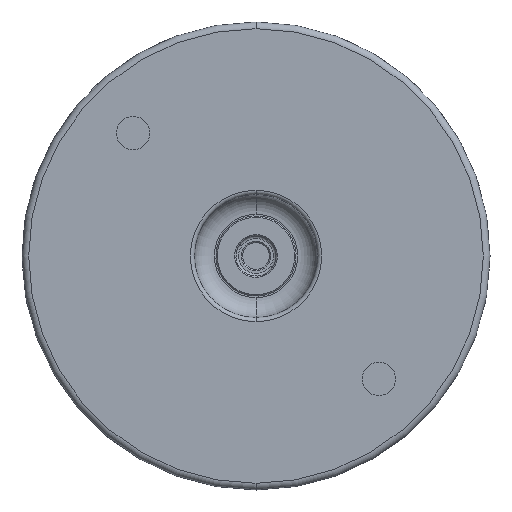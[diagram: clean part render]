
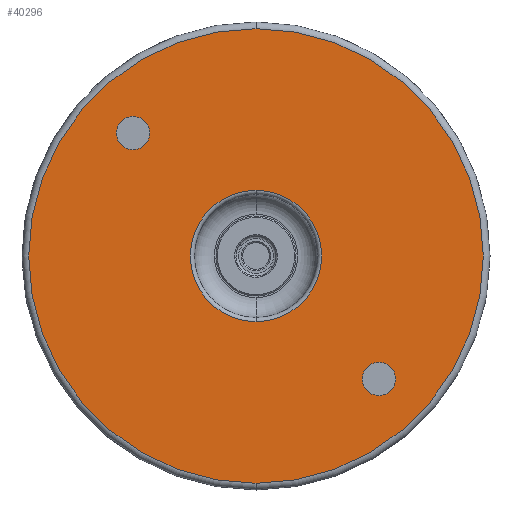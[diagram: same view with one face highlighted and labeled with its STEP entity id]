
A CAD part, front view. The second image highlights one B-rep face of the part: STEP entity #40296.
In plain terms, the highlighted planar face has unit normal (0, -1, 0).
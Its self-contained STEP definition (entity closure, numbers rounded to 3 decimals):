
#68 = EDGE_LOOP ( 'NONE', ( #78369, #88945 ) ) ;
#179 = EDGE_CURVE ( 'NONE', #35422, #9507, #38203, .T. ) ;
#6001 = CIRCLE ( 'NONE', #36525, 1.25 ) ;
#9507 = VERTEX_POINT ( 'NONE', #14874 ) ;
#10550 = VERTEX_POINT ( 'NONE', #107652 ) ;
#11586 = DIRECTION ( 'NONE',  ( 0., 0., 1. ) ) ;
#12638 = FACE_BOUND ( 'NONE', #68, .T. ) ;
#13008 = CARTESIAN_POINT ( 'NONE',  ( 0., 0., 0. ) ) ;
#14874 = CARTESIAN_POINT ( 'NONE',  ( 9.192, 0., -7.942 ) ) ;
#18614 = PLANE ( 'NONE',  #63818 ) ;
#21363 = ORIENTED_EDGE ( 'NONE', *, *, #36585, .T. ) ;
#25757 = FACE_BOUND ( 'NONE', #84002, .T. ) ;
#26886 = ORIENTED_EDGE ( 'NONE', *, *, #78587, .T. ) ;
#27383 = VERTEX_POINT ( 'NONE', #98402 ) ;
#28379 = CARTESIAN_POINT ( 'NONE',  ( -9.192, 0., 9.192 ) ) ;
#28605 = EDGE_CURVE ( 'NONE', #48533, #70200, #54169, .T. ) ;
#29565 = DIRECTION ( 'NONE',  ( 0., 0., 1. ) ) ;
#29910 = CARTESIAN_POINT ( 'NONE',  ( 9.192, 0., -9.192 ) ) ;
#30556 = CARTESIAN_POINT ( 'NONE',  ( 0., 0., 17. ) ) ;
#30653 = CARTESIAN_POINT ( 'NONE',  ( -9.192, 0., 9.192 ) ) ;
#35388 = VERTEX_POINT ( 'NONE', #73818 ) ;
#35422 = VERTEX_POINT ( 'NONE', #107039 ) ;
#36525 = AXIS2_PLACEMENT_3D ( 'NONE', #29910, #71447, #78838 ) ;
#36585 = EDGE_CURVE ( 'NONE', #84344, #10550, #99537, .T. ) ;
#36618 = AXIS2_PLACEMENT_3D ( 'NONE', #58651, #66735, #99878 ) ;
#36925 = DIRECTION ( 'NONE',  ( 0., 0., 1. ) ) ;
#37732 = AXIS2_PLACEMENT_3D ( 'NONE', #30653, #88823, #29565 ) ;
#38203 = CIRCLE ( 'NONE', #36618, 1.25 ) ;
#38624 = CARTESIAN_POINT ( 'NONE',  ( 0., 0., -4.91 ) ) ;
#40296 = ADVANCED_FACE ( 'NONE', ( #104806, #82381, #12638, #25757 ), #18614, .F. ) ;
#40915 = EDGE_CURVE ( 'NONE', #27383, #35388, #95474, .T. ) ;
#42056 = EDGE_LOOP ( 'NONE', ( #26886, #77047 ) ) ;
#43689 = DIRECTION ( 'NONE',  ( 0., 0., 1. ) ) ;
#45107 = AXIS2_PLACEMENT_3D ( 'NONE', #13008, #71802, #11586 ) ;
#45297 = EDGE_CURVE ( 'NONE', #9507, #35422, #6001, .T. ) ;
#45366 = AXIS2_PLACEMENT_3D ( 'NONE', #100512, #83613, #75859 ) ;
#46725 = DIRECTION ( 'NONE',  ( 0., 1., 0. ) ) ;
#48533 = VERTEX_POINT ( 'NONE', #50332 ) ;
#50332 = CARTESIAN_POINT ( 'NONE',  ( 0., 0., -17. ) ) ;
#54169 = CIRCLE ( 'NONE', #45366, 17. ) ;
#56418 = CIRCLE ( 'NONE', #37732, 1.25 ) ;
#58093 = EDGE_LOOP ( 'NONE', ( #79407, #21363 ) ) ;
#58651 = CARTESIAN_POINT ( 'NONE',  ( 9.192, 0., -9.192 ) ) ;
#60983 = CIRCLE ( 'NONE', #45107, 17. ) ;
#63212 = DIRECTION ( 'NONE',  ( 0., 0., 1. ) ) ;
#63818 = AXIS2_PLACEMENT_3D ( 'NONE', #68596, #77091, #43689 ) ;
#66735 = DIRECTION ( 'NONE',  ( 0., 1., 0. ) ) ;
#68596 = CARTESIAN_POINT ( 'NONE',  ( 0., 0., 0. ) ) ;
#69387 = AXIS2_PLACEMENT_3D ( 'NONE', #80164, #46725, #63212 ) ;
#70200 = VERTEX_POINT ( 'NONE', #30556 ) ;
#71447 = DIRECTION ( 'NONE',  ( 0., 1., 0. ) ) ;
#71802 = DIRECTION ( 'NONE',  ( 0., -1., 0. ) ) ;
#73557 = DIRECTION ( 'NONE',  ( 0., 1., 0. ) ) ;
#73818 = CARTESIAN_POINT ( 'NONE',  ( -9.192, 0., 10.442 ) ) ;
#75859 = DIRECTION ( 'NONE',  ( 0., 0., 1. ) ) ;
#77047 = ORIENTED_EDGE ( 'NONE', *, *, #28605, .T. ) ;
#77091 = DIRECTION ( 'NONE',  ( 0., 1., 0. ) ) ;
#78369 = ORIENTED_EDGE ( 'NONE', *, *, #40915, .T. ) ;
#78587 = EDGE_CURVE ( 'NONE', #70200, #48533, #60983, .T. ) ;
#78838 = DIRECTION ( 'NONE',  ( 0., 0., 1. ) ) ;
#79407 = ORIENTED_EDGE ( 'NONE', *, *, #85717, .T. ) ;
#80164 = CARTESIAN_POINT ( 'NONE',  ( 0., 0., 0. ) ) ;
#81712 = DIRECTION ( 'NONE',  ( 0., 0., 1. ) ) ;
#82381 = FACE_BOUND ( 'NONE', #58093, .T. ) ;
#83613 = DIRECTION ( 'NONE',  ( 0., -1., 0. ) ) ;
#84002 = EDGE_LOOP ( 'NONE', ( #105599, #106868 ) ) ;
#84344 = VERTEX_POINT ( 'NONE', #38624 ) ;
#85717 = EDGE_CURVE ( 'NONE', #10550, #84344, #99577, .T. ) ;
#87289 = DIRECTION ( 'NONE',  ( 0., 1., 0. ) ) ;
#88823 = DIRECTION ( 'NONE',  ( 0., 1., 0. ) ) ;
#88945 = ORIENTED_EDGE ( 'NONE', *, *, #100914, .T. ) ;
#90334 = AXIS2_PLACEMENT_3D ( 'NONE', #98974, #73557, #81712 ) ;
#95474 = CIRCLE ( 'NONE', #96449, 1.25 ) ;
#96449 = AXIS2_PLACEMENT_3D ( 'NONE', #28379, #87289, #36925 ) ;
#98402 = CARTESIAN_POINT ( 'NONE',  ( -9.192, 0., 7.942 ) ) ;
#98974 = CARTESIAN_POINT ( 'NONE',  ( 0., 0., 0. ) ) ;
#99537 = CIRCLE ( 'NONE', #90334, 4.91 ) ;
#99577 = CIRCLE ( 'NONE', #69387, 4.91 ) ;
#99878 = DIRECTION ( 'NONE',  ( 0., 0., 1. ) ) ;
#100512 = CARTESIAN_POINT ( 'NONE',  ( 0., 0., 0. ) ) ;
#100914 = EDGE_CURVE ( 'NONE', #35388, #27383, #56418, .T. ) ;
#104806 = FACE_OUTER_BOUND ( 'NONE', #42056, .T. ) ;
#105599 = ORIENTED_EDGE ( 'NONE', *, *, #179, .T. ) ;
#106868 = ORIENTED_EDGE ( 'NONE', *, *, #45297, .T. ) ;
#107039 = CARTESIAN_POINT ( 'NONE',  ( 9.192, 0., -10.442 ) ) ;
#107652 = CARTESIAN_POINT ( 'NONE',  ( 0., 0., 4.91 ) ) ;
